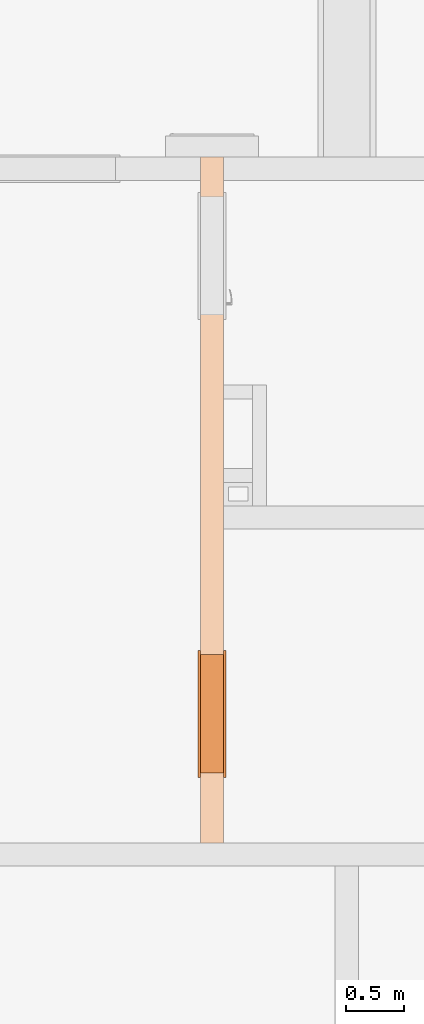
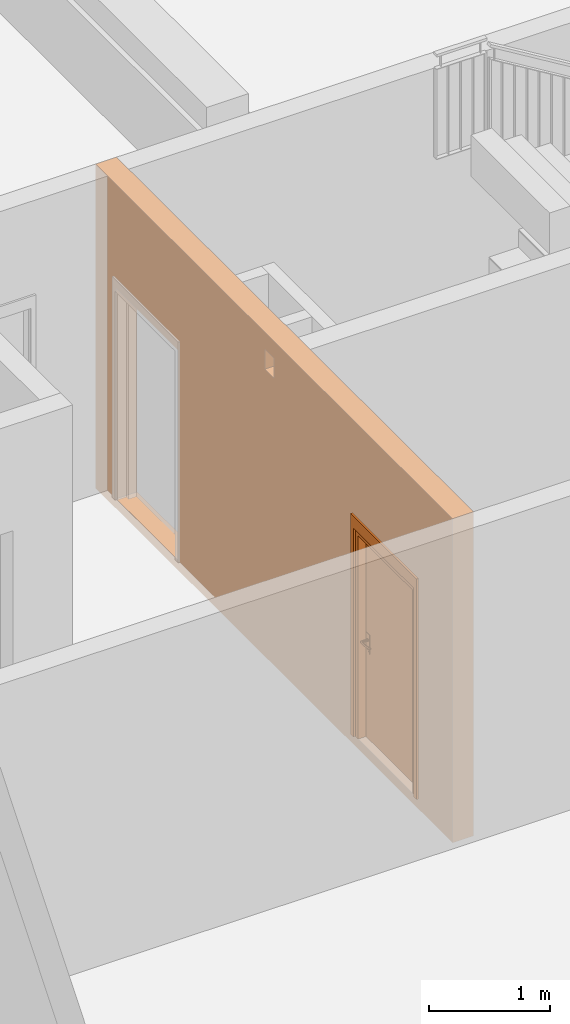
# One storey, part 18 of 25: 1 proxy, 3 openings, plus 1 element that does not belong to this part.
"""IFC2X3 building model written with IfcOpenShell, lengths in millimetres."""

import ifcopenshell
import ifcopenshell.guid

model = None  # the IFC model being written
_history = None  # IfcOwnerHistory: only IFC2X3 demands one
_inside = {}  # id of a spatial element -> (the spatial element, [elements in it])
_under = {}  # id of a project, library or spatial element -> (it, [spatial elements below it])
_declared = {}  # id of a project -> (the project, [libraries it declares])
_typed = {}  # id of a type object -> (the type object, [elements of that type])
_made_of = {}  # id of a material, layer set ... -> (it, [elements and type objects made of it])


def new_model(schema):
    """Start an empty IFC model of exactly this schema.

    Asked for "IFC4X3", IfcOpenShell would pick the latest addendum, in which some entities
    have other attributes; the version numbers below select the first issue.
    IFC2X3 requires an IfcOwnerHistory on every rooted entity: one is made here for all.
    """
    global model, _history
    if schema == "IFC4X3":
        model = ifcopenshell.file(schema_version=(4, 3, 0, 0))
    else:
        model = ifcopenshell.file(schema=schema)
    _inside.clear()
    _under.clear()
    _declared.clear()
    _typed.clear()
    _made_of.clear()
    _history = None
    if model.schema == "IFC2X3":
        org = make("IfcOrganization", Name="unknown")
        user = make(
            "IfcPersonAndOrganization",
            ThePerson=make("IfcPerson", FamilyName="unknown"),
            TheOrganization=org,
        )
        app = make(
            "IfcApplication",
            ApplicationDeveloper=org,
            Version="unknown",
            ApplicationFullName="unknown",
            ApplicationIdentifier="unknown",
        )
        _history = make(
            "IfcOwnerHistory",
            OwningUser=user,
            OwningApplication=app,
            ChangeAction="ADDED",
            CreationDate=0,
        )
    return model


def make(cls, **values):
    """One entity of the class cls with the attributes given. An attribute that is None is left unset."""
    return model.create_entity(
        cls, **{name: value for name, value in values.items() if value is not None}
    )


def entity(cls, *values):
    """Any entity or typed value of the class cls, its attributes in the order of the schema. None: left unset."""
    e = model.create_entity(cls)
    for i, value in enumerate(values):
        if value is not None:
            e[i] = value
    return e


def rooted(cls, **values):
    """An entity with a GlobalId (a new one), such as an element, a storey or a relation."""
    return make(cls, GlobalId=ifcopenshell.guid.new(), OwnerHistory=_history, **values)


def si_unit(unit_type, name, prefix=None):
    """IfcSIUnit, for example si_unit("LENGTHUNIT", "METRE", prefix="MILLI")."""
    return make("IfcSIUnit", UnitType=unit_type, Prefix=prefix, Name=name)


def converted_unit(unit_type, name, factor, base, dimensions=None, offset=None):
    """IfcConversionBasedUnit, such as the inch: factor (a typed value) times the base unit."""
    return make(
        "IfcConversionBasedUnit"
        if offset is None
        else "IfcConversionBasedUnitWithOffset",
        ConversionOffset=offset,
        Dimensions=None
        if dimensions is None
        else entity("IfcDimensionalExponents", *dimensions),
        UnitType=unit_type,
        Name=name,
        ConversionFactor=make(
            "IfcMeasureWithUnit", ValueComponent=factor, UnitComponent=base
        ),
    )


def derived_unit(unit_type, elements):
    """IfcDerivedUnit: a product of units, each with its exponent."""
    return make(
        "IfcDerivedUnit",
        Elements=[
            make("IfcDerivedUnitElement", Unit=unit, Exponent=power)
            for unit, power in elements
        ],
        UnitType=unit_type,
    )


def money_unit(currency):
    """IfcMonetaryUnit."""
    return make("IfcMonetaryUnit", Currency=currency)


def assignment(units):
    """IfcUnitAssignment: the units of a project."""
    return None if units is None else make("IfcUnitAssignment", Units=units)


def point(xyz):
    """IfcCartesianPoint."""
    return None if xyz is None else make("IfcCartesianPoint", Coordinates=xyz)


def direction(xyz):
    """IfcDirection."""
    return None if xyz is None else make("IfcDirection", DirectionRatios=xyz)


def frame(location, z_axis=None, x_axis=None):
    """IfcAxis2Placement3D, a coordinate frame: its origin and axes. An axis left out is left unset."""
    return make(
        "IfcAxis2Placement3D",
        Location=point(location),
        Axis=direction(z_axis),
        RefDirection=direction(x_axis),
    )


def frame_2d(location, x_axis=None):
    """IfcAxis2Placement2D, a coordinate frame in the plane: its origin and x axis."""
    return make(
        "IfcAxis2Placement2D", Location=point(location), RefDirection=direction(x_axis)
    )


def origin_with_axes():
    """The frame at (0, 0, 0) with the z axis (0, 0, 1) and the x axis (1, 0, 0) written out."""
    return frame((0.0, 0.0, 0.0), z_axis=(0.0, 0.0, 1.0), x_axis=(1.0, 0.0, 0.0))


def origin_2d_with_axis():
    """The frame at (0, 0) in the plane with the x axis (1, 0) written out."""
    return frame_2d((0.0, 0.0), x_axis=(1.0, 0.0))


def place(relative_to, where):
    """IfcLocalPlacement: puts the frame where relative to a parent placement (None: the world)."""
    return make(
        "IfcLocalPlacement", PlacementRelTo=relative_to, RelativePlacement=where
    )


def context(
    kind, dimensions, precision=None, world=None, true_north=None, identifier=None
):
    """IfcGeometricRepresentationContext, for example the 3D "Model" context."""
    return make(
        "IfcGeometricRepresentationContext",
        ContextIdentifier=identifier,
        ContextType=kind,
        CoordinateSpaceDimension=dimensions,
        Precision=precision,
        WorldCoordinateSystem=world,
        TrueNorth=true_north,
    )


def subcontext(parent, identifier, kind, view, scale=None):
    """IfcGeometricRepresentationSubContext, for example "Body" below "Model"."""
    return make(
        "IfcGeometricRepresentationSubContext",
        ContextIdentifier=identifier,
        ContextType=kind,
        ParentContext=parent,
        TargetScale=scale,
        TargetView=view,
    )


def project(units=None, contexts=None):
    """IfcProject with its units and contexts."""
    return rooted(
        "IfcProject",
        Name="project",
        RepresentationContexts=contexts,
        UnitsInContext=assignment(units),
    )


def spatial(cls, under=None, at=None, **own):
    """A site, building, storey or space (cls), placed at a placement, below another one or the project."""
    s = rooted(cls, ObjectPlacement=at, **own)
    if under is not None:
        _under.setdefault(under.id(), (under, []))[1].append(s)
    return s


def profile(cls, at=None, kind="AREA", **sizes):
    """A parametric profile (cls). Its sizes go by their IFC names, for example OverallWidth=200.0."""
    return make(cls, ProfileType=kind, Position=at, **sizes)


def rectangle(**sizes):
    """IfcRectangleProfileDef."""
    return profile("IfcRectangleProfileDef", **sizes)


def extrude(swept, where, along, depth):
    """IfcExtrudedAreaSolid: the profile swept, set in the frame where, extruded along a direction by depth."""
    return make(
        "IfcExtrudedAreaSolid",
        SweptArea=swept,
        Position=where,
        ExtrudedDirection=direction(along),
        Depth=depth,
    )


def faces_of(points, faces, orient=None, outer=None):
    """IfcFace entities. A face is a list of loops; a loop is a list of indices into points, from 0.

    orient and outer hold one flag for each loop. By default every Orientation is true, the
    first loop of a face is its IfcFaceOuterBound and the others are IfcFaceBound.
    """
    made = []
    for i, loops in enumerate(faces):
        bounds = []
        for j, loop in enumerate(loops):
            is_outer = j == 0 if outer is None else outer[i][j]
            bounds.append(
                make(
                    "IfcFaceOuterBound" if is_outer else "IfcFaceBound",
                    Bound=make("IfcPolyLoop", Polygon=[points[k] for k in loop]),
                    Orientation=True if orient is None else orient[i][j],
                )
            )
        made.append(make("IfcFace", Bounds=bounds))
    return made


def open_shell(faces, orient=None, outer=None):
    """The faces of one IfcOpenShell. surface_model builds it on its shared points."""
    return ("IfcOpenShell", faces, orient, outer)


def faceted_brep(points, faces, orient=None, outer=None, voids=None):
    """IfcFacetedBrep: a solid bounded by flat faces; with voids (closed shells), ...WithVoids."""
    shared = [point(p) for p in points]
    hull = make("IfcClosedShell", CfsFaces=faces_of(shared, faces, orient, outer))
    if voids is None:
        return make("IfcFacetedBrep", Outer=hull)
    return make(
        "IfcFacetedBrepWithVoids",
        Outer=hull,
        Voids=[
            make(cls, CfsFaces=faces_of(shared, fs, o, b)) for cls, fs, o, b in voids
        ],
    )


def surface_model(cls, points, shells):
    """IfcFaceBasedSurfaceModel or IfcShellBasedSurfaceModel (cls): surfaces that need not close."""
    shared = [point(p) for p in points]
    made = [make(c, CfsFaces=faces_of(shared, fs, o, b)) for c, fs, o, b in shells]
    if cls == "IfcFaceBasedSurfaceModel":
        return make(cls, FbsmFaces=made)
    return make(cls, SbsmBoundary=made)


def shape(context_of_items, identifier, shape_type, items):
    """IfcShapeRepresentation: the items that make up one representation, for example the "Body"."""
    return make(
        "IfcShapeRepresentation",
        ContextOfItems=context_of_items,
        RepresentationIdentifier=identifier,
        RepresentationType=shape_type,
        Items=items,
    )


def source(mapping_origin, context_of_items, identifier, shape_type, items):
    """IfcRepresentationMap: a shape defined once, which mapped items show again and again."""
    return make(
        "IfcRepresentationMap",
        MappingOrigin=mapping_origin,
        MappedRepresentation=shape(context_of_items, identifier, shape_type, items),
    )


def transform(
    local_origin,
    x_axis=None,
    y_axis=None,
    z_axis=None,
    scale=None,
    scale2=None,
    scale3=None,
    uniform=True,
):
    """IfcCartesianTransformationOperator3D, or its non-uniform kind. x_axis, y_axis, z_axis: its Axis1, 2, 3."""
    if uniform:
        return make(
            "IfcCartesianTransformationOperator3D",
            Axis1=direction(x_axis),
            Axis2=direction(y_axis),
            LocalOrigin=point(local_origin),
            Scale=scale,
            Axis3=direction(z_axis),
        )
    return make(
        "IfcCartesianTransformationOperator3DnonUniform",
        Axis1=direction(x_axis),
        Axis2=direction(y_axis),
        LocalOrigin=point(local_origin),
        Scale=scale,
        Axis3=direction(z_axis),
        Scale2=scale2,
        Scale3=scale3,
    )


def mapped(mapping_source, mapping_target):
    """IfcMappedItem: shows the shape of a source again, moved by a transform."""
    return make(
        "IfcMappedItem", MappingSource=mapping_source, MappingTarget=mapping_target
    )


def material(Name=None, Category=None):
    """IfcMaterial."""
    return make("IfcMaterial", Name=Name, Category=Category)


def made_of(thing, what):
    """Note that an element or type object is made of a material, layer set ...; save() writes the relation."""
    if what is not None:
        _made_of.setdefault(what.id(), (what, []))[1].append(thing)
    return thing


def type_object(cls, material=None, **own):
    """A type object (cls), such as IfcWallType, which elements share."""
    return made_of(rooted(cls, **own), material)


def element(
    cls,
    number,
    at=None,
    inside=None,
    cuts=None,
    type_object=None,
    material=None,
    context=None,
    identifier="Body",
    shape_type=None,
    held_by="IfcProductDefinitionShape",
    body=None,
    shapes=None,
    **own,
):
    """One element of the class cls, such as IfcWall. Its Tag is "e" and its number.

    at: its placement. inside: the storey or other place that contains it. cuts: it is an
    opening in that element (IfcRelVoidsElement). A single representation is given by context,
    identifier, shape_type and body (its items); several are given by shapes. held_by: the class
    of the entity that holds the representations. save() writes the other relations.
    """
    e = rooted(cls, Tag="e%d" % number, ObjectPlacement=at, **own)
    if body is not None:
        shapes = [shape(context, identifier, shape_type, body)]
    if shapes is not None:
        e.Representation = make(held_by, Representations=shapes)
    if inside is not None:
        _inside.setdefault(inside.id(), (inside, []))[1].append(e)
    if cuts is not None:
        rooted(
            "IfcRelVoidsElement", RelatingBuildingElement=cuts, RelatedOpeningElement=e
        )
    if type_object is not None:
        _typed.setdefault(type_object.id(), (type_object, []))[1].append(e)
    return made_of(e, material)


def fill(opening, filler):
    """IfcRelFillsElement: the door or window that sits in an opening."""
    return rooted(
        "IfcRelFillsElement",
        RelatingOpeningElement=opening,
        RelatedBuildingElement=filler,
    )


def aggregate(whole, parts):
    """IfcRelAggregates: a whole, such as a stair, and the parts it consists of."""
    return rooted("IfcRelAggregates", RelatingObject=whole, RelatedObjects=parts)


def save(model, path):
    """Write the relations noted so far, then the file.

    IfcRelAggregates (storeys below a building ...), IfcRelContainedInSpatialStructure (elements
    in a storey), IfcRelDefinesByType, IfcRelAssociatesMaterial and IfcRelDeclares: one each for
    every whole, place, type object, material and project.
    """
    for whole, parts in _under.values():
        aggregate(whole, parts)
    for where, things in _inside.values():
        rooted(
            "IfcRelContainedInSpatialStructure",
            RelatedElements=things,
            RelatingStructure=where,
        )
    for kind, things in _typed.values():
        rooted("IfcRelDefinesByType", RelatedObjects=things, RelatingType=kind)
    for what, things in _made_of.values():
        rooted("IfcRelAssociatesMaterial", RelatedObjects=things, RelatingMaterial=what)
    for by, libraries in _declared.values():
        rooted("IfcRelDeclares", RelatingContext=by, RelatedDefinitions=libraries)
    model.write(path)


model = new_model("IFC2X3")

# Units and contexts
model_context = context("Model", 3, precision=0.01, world=origin_with_axes(), true_north=direction((0.34421633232, 0.938890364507)))
body_context = subcontext(model_context, "Body", "Model", "MODEL_VIEW")
ifc_project = project(units=[si_unit("LENGTHUNIT", "METRE", prefix="MILLI"), si_unit("AREAUNIT", "SQUARE_METRE"), si_unit("VOLUMEUNIT", "CUBIC_METRE"), converted_unit("PLANEANGLEUNIT", "DEGREE", entity("IfcPlaneAngleMeasure", 0.0174532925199), si_unit("PLANEANGLEUNIT", "RADIAN"), dimensions=[0, 0, 0, 0, 0, 0, 0]), si_unit("SOLIDANGLEUNIT", "STERADIAN"), money_unit("USD"), converted_unit("TIMEUNIT", "Year", entity("IfcTimeMeasure", 31556926.0), si_unit("TIMEUNIT", "SECOND"), dimensions=[0, 0, 1, 0, 0, 0, 0]), si_unit("MASSUNIT", "GRAM", prefix="KILO"), si_unit("THERMODYNAMICTEMPERATUREUNIT", "DEGREE_CELSIUS"), si_unit("LUMINOUSINTENSITYUNIT", "LUMEN"), si_unit("ENERGYUNIT", "JOULE", prefix="MEGA"), derived_unit("THERMALCONDUCTANCEUNIT", [(si_unit("POWERUNIT", "WATT"), 1), (si_unit("LENGTHUNIT", "METRE"), -1), (si_unit("THERMODYNAMICTEMPERATUREUNIT", "KELVIN"), -1)]), derived_unit("SPECIFICHEATCAPACITYUNIT", [(si_unit("ENERGYUNIT", "JOULE"), 1), (si_unit("MASSUNIT", "GRAM", prefix="KILO"), -1), (si_unit("THERMODYNAMICTEMPERATUREUNIT", "KELVIN"), -1)]), derived_unit("MASSDENSITYUNIT", [(si_unit("MASSUNIT", "GRAM", prefix="KILO"), 1), (si_unit("VOLUMEUNIT", "CUBIC_METRE"), -1)])], contexts=[model_context])

# Site, building, storey
site_placement = place(None, origin_with_axes())
site = spatial("IfcSite", under=ifc_project, at=site_placement, Name="USTRONIE MORSKIE", CompositionType="ELEMENT")
building_placement = place(site_placement, origin_with_axes())
building = spatial("IfcBuilding", under=site, at=building_placement, Name="Budynek", CompositionType="ELEMENT")
storey_placement = place(building_placement, frame((0.0, 0.0, -3600.0), z_axis=(0.0, 0.0, 1.0), x_axis=(1.0, 0.0, 0.0)))
storey = spatial("IfcBuildingStorey", under=building, at=storey_placement, Name="GARAZ", CompositionType="ELEMENT", Elevation=-3600.0)

# Proxies, openings
ifc_material = material(Name="Beton konstrukcyjny 01")
building_element_proxy_type_1 = type_object("IfcBuildingElementProxyType", Name="Beton konstrukcyjny 01 200", PredefinedType="NOTDEFINED")
proxy_1_placement = place(storey_placement, frame((389657.920919, 726901.199036, -100.0), z_axis=(0.0, 0.0, 1.0), x_axis=(0.0, 1.0, 0.0)))
proxy_1 = element("IfcBuildingElementProxy", 1, at=proxy_1_placement, inside=storey, type_object=building_element_proxy_type_1, material=ifc_material, Name="SW-01", context=body_context, shape_type="Brep", body=[
    faceted_brep([(6000.0, -100.0, 3270.0), (6000.0, 100.0, 3270.0), (100.0, 100.0, 3270.0), (100.0, -100.0, 3270.0), (6000.0, -100.0, 0.0), (6000.0, 100.0, 0.0), (100.0, 100.0, 0.0), (100.0, -100.0, 0.0)], [[[0, 1, 2, 3]], [[1, 0, 4, 5]], [[1, 5, 6, 2]], [[7, 3, 2, 6]], [[4, 0, 3, 7]], [[5, 4, 7, 6]]]),
])
opening_1_placement = place(proxy_1_placement, frame((3125.0, 0.0, 2900.0), z_axis=(0.0, 0.0, 1.0), x_axis=(1.0, 0.0, 0.0)))
element("IfcOpeningElement", 2, at=opening_1_placement, cuts=proxy_1, Name="Wz.04", context=body_context, shape_type="SweptSolid", body=[
    extrude(rectangle(XDim=150.0, YDim=200.0, at=origin_2d_with_axis()), frame((0.0, 100.0, 100.0), z_axis=(0.0, -1.0, 0.0), x_axis=(1.0, 0.0, 0.0)), (0.0, 0.0, -1.0), 200.0),
    extrude(rectangle(XDim=150.0, YDim=200.0, at=origin_2d_with_axis()), frame((0.0, 100.0, 100.0), z_axis=(0.0, 1.0, 0.0), x_axis=(1.0, 0.0, 0.0)), (0.0, 0.0, -1.0), 200.0),
])
opening_2_placement = place(proxy_1_placement, frame((5150.0, 0.0, 100.0), z_axis=(0.0, 0.0, 1.0), x_axis=(1.0, 0.0, 0.0)))
element("IfcOpeningElement", 3, at=opening_2_placement, cuts=proxy_1, Name="Dw03", context=body_context, shape_type="SweptSolid", body=[
    extrude(rectangle(XDim=1020.0, YDim=2120.0, at=origin_2d_with_axis()), frame((0.0, 200.0, 1060.0), z_axis=(0.0, 1.0, 0.0), x_axis=(1.0, 0.0, 0.0)), (0.0, 0.0, -1.0), 600.0),
    extrude(rectangle(XDim=1094.0, YDim=2227.0, at=origin_2d_with_axis()), frame((0.0, 100.0, 1113.5), z_axis=(0.0, 1.0, 0.0), x_axis=(1.0, 0.0, 0.0)), (0.0, 0.0, 1.0), 200.0),
    extrude(rectangle(XDim=1094.0, YDim=2227.0, at=origin_2d_with_axis()), frame((0.0, -100.0, 1113.5), z_axis=(0.0, -1.0, 0.0), x_axis=(1.0, 0.0, 0.0)), (0.0, 0.0, 1.0), 200.0),
])
opening_3_placement = place(proxy_1_placement, frame((1210.0, 0.0, 100.0), z_axis=(0.0, 0.0, 1.0), x_axis=(1.0, 0.0, 0.0)))
opening_3 = element("IfcOpeningElement", 4, at=opening_3_placement, cuts=proxy_1, Name="Dw02", context=body_context, shape_type="SweptSolid", body=[
    extrude(rectangle(XDim=1020.0, YDim=2120.0, at=origin_2d_with_axis()), frame((0.0, -200.0, 1060.0), z_axis=(0.0, 1.0, 0.0), x_axis=(-1.0, 0.0, 0.0)), (0.0, 0.0, 1.0), 600.0),
    extrude(rectangle(XDim=1094.0, YDim=2227.0, at=origin_2d_with_axis()), frame((0.0, -100.0, 1113.5), z_axis=(0.0, 1.0, 0.0), x_axis=(-1.0, 0.0, 0.0)), (0.0, 0.0, -1.0), 200.0),
    extrude(rectangle(XDim=1094.0, YDim=2227.0, at=origin_2d_with_axis()), frame((0.0, 100.0, 1113.5), z_axis=(0.0, -1.0, 0.0), x_axis=(-1.0, 0.0, 0.0)), (0.0, 0.0, -1.0), 200.0),
])
building_element_proxy_type_2 = type_object("IfcBuildingElementProxyType", Name="Drzwi 23", PredefinedType="NOTDEFINED")
shared_shape = source(origin_with_axes(), body_context, "Body", "SurfaceModel", [
    faceted_brep([(-510.0, 0.0, 0.0), (-510.0, 85.0, 0.0), (-485.0, 85.0, 0.0), (-485.0, 0.0, 0.0), (-510.0, 0.0, 2120.0), (-510.0, 85.0, 2120.0), (-485.0, 85.0, 2095.0), (-485.0, 0.0, 2095.0)], [[[0, 1, 2, 3]], [[4, 5, 1, 0]], [[1, 5, 6, 2]], [[3, 2, 6, 7]], [[0, 3, 7, 4]], [[7, 6, 5, 4]]]),
    faceted_brep([(510.0, 0.0, 2120.0), (510.0, 85.0, 2120.0), (485.0, 85.0, 2095.0), (485.0, 0.0, 2095.0), (510.0, 0.0, 0.0), (510.0, 85.0, 0.0), (485.0, 85.0, 0.0), (485.0, 0.0, 0.0)], [[[0, 1, 2, 3]], [[4, 5, 1, 0]], [[1, 5, 6, 2]], [[3, 2, 6, 7]], [[0, 3, 7, 4]], [[7, 6, 5, 4]]]),
    faceted_brep([(-485.0, 0.0, 2095.0), (-485.0, 85.0, 2095.0), (485.0, 85.0, 2095.0), (485.0, 0.0, 2095.0), (-510.0, 0.0, 2120.0), (-510.0, 85.0, 2120.0), (510.0, 85.0, 2120.0), (510.0, 0.0, 2120.0)], [[[0, 1, 2, 3]], [[4, 5, 1, 0]], [[1, 5, 6, 2]], [[3, 2, 6, 7]], [[0, 3, 7, 4]], [[7, 6, 5, 4]]]),
    faceted_brep([(-547.0, 104.0, 0.0), (-497.0, 104.0, 0.0), (-497.0, 85.0, 0.0), (-547.0, 85.0, 0.0), (-547.0, 104.0, 2227.0), (-497.0, 104.0, 2107.0), (-497.0, 85.0, 2107.0), (-547.0, 85.0, 2227.0)], [[[0, 1, 2, 3]], [[0, 4, 5, 1]], [[1, 5, 6, 2]], [[3, 2, 6, 7]], [[4, 0, 3, 7]], [[5, 4, 7, 6]]]),
    faceted_brep([(547.0, 104.0, 2227.0), (497.0, 104.0, 2107.0), (497.0, 85.0, 2107.0), (547.0, 85.0, 2227.0), (547.0, 104.0, 0.0), (497.0, 104.0, 0.0), (497.0, 85.0, 0.0), (547.0, 85.0, 0.0)], [[[0, 1, 2, 3]], [[0, 4, 5, 1]], [[1, 5, 6, 2]], [[3, 2, 6, 7]], [[4, 0, 3, 7]], [[5, 4, 7, 6]]]),
    faceted_brep([(-547.0, 104.0, 2227.0), (-497.0, 104.0, 2107.0), (-497.0, 85.0, 2107.0), (-547.0, 85.0, 2227.0), (547.0, 104.0, 2227.0), (497.0, 104.0, 2107.0), (497.0, 85.0, 2107.0), (547.0, 85.0, 2227.0)], [[[0, 1, 2, 3]], [[0, 4, 5, 1]], [[1, 5, 6, 2]], [[3, 2, 6, 7]], [[4, 0, 3, 7]], [[5, 4, 7, 6]]]),
    faceted_brep([(-547.0, -134.0, 0.0), (-547.0, -115.0, 0.0), (-497.0, -115.0, 0.0), (-497.0, -134.0, 0.0), (-547.0, -134.0, 2227.0), (-547.0, -115.0, 2227.0), (-497.0, -115.0, 2107.0), (-497.0, -134.0, 2107.0)], [[[0, 1, 2, 3]], [[4, 5, 1, 0]], [[1, 5, 6, 2]], [[3, 2, 6, 7]], [[0, 3, 7, 4]], [[7, 6, 5, 4]]]),
    faceted_brep([(547.0, -134.0, 2227.0), (547.0, -115.0, 2227.0), (497.0, -115.0, 2107.0), (497.0, -134.0, 2107.0), (547.0, -134.0, 0.0), (547.0, -115.0, 0.0), (497.0, -115.0, 0.0), (497.0, -134.0, 0.0)], [[[0, 1, 2, 3]], [[4, 5, 1, 0]], [[1, 5, 6, 2]], [[3, 2, 6, 7]], [[0, 3, 7, 4]], [[7, 6, 5, 4]]]),
    faceted_brep([(-547.0, -134.0, 2227.0), (-547.0, -115.0, 2227.0), (-497.0, -115.0, 2107.0), (-497.0, -134.0, 2107.0), (547.0, -134.0, 2227.0), (547.0, -115.0, 2227.0), (497.0, -115.0, 2107.0), (497.0, -134.0, 2107.0)], [[[0, 1, 2, 3]], [[4, 5, 1, 0]], [[1, 5, 6, 2]], [[3, 2, 6, 7]], [[0, 3, 7, 4]], [[7, 6, 5, 4]]]),
    faceted_brep([(-450.0, -40.0, 0.0), (-450.0, -40.0, 2050.0), (-450.0, -115.0, 2050.0), (-450.0, -115.0, 0.0), (-462.0, -40.0, 2050.0), (-462.0, -40.0, 0.0), (-462.0, 0.0, 2050.0), (-510.0, 0.0, 2050.0), (-510.0, -115.0, 2050.0), (-510.0, -115.0, 0.0), (-510.0, 0.0, 0.0), (-462.0, 0.0, 0.0)], [[[0, 1, 2, 3]], [[4, 1, 0, 5]], [[4, 6, 7, 8, 2, 1]], [[3, 2, 8, 9]], [[5, 0, 3, 9, 10, 11]], [[6, 4, 5, 11]], [[6, 11, 10, 7]], [[10, 9, 8, 7]]]),
    faceted_brep([(462.0, -40.0, 2050.0), (450.0, -40.0, 2050.0), (450.0, -115.0, 2050.0), (510.0, -115.0, 2050.0), (510.0, 0.0, 2050.0), (462.0, 0.0, 2050.0), (462.0, -40.0, 0.0), (450.0, -40.0, 0.0), (450.0, -115.0, 0.0), (510.0, -115.0, 0.0), (510.0, 0.0, 0.0), (462.0, 0.0, 0.0)], [[[0, 1, 2, 3, 4, 5]], [[1, 0, 6, 7]], [[1, 7, 8, 2]], [[3, 2, 8, 9]], [[4, 3, 9, 10]], [[11, 5, 4, 10]], [[0, 5, 11, 6]], [[6, 11, 10, 9, 8, 7]]]),
    faceted_brep([(-462.0, 0.0, 2062.0), (-462.0, 0.0, 2050.0), (-510.0, 0.0, 2050.0), (-510.0, 0.0, 2120.0), (510.0, 0.0, 2120.0), (510.0, 0.0, 2050.0), (462.0, 0.0, 2050.0), (462.0, 0.0, 2062.0), (-462.0, -40.0, 2062.0), (-462.0, -40.0, 2050.0), (-450.0, -40.0, 2050.0), (-450.0, -115.0, 2050.0), (-510.0, -115.0, 2050.0), (-510.0, -115.0, 2120.0), (510.0, -115.0, 2120.0), (510.0, -115.0, 2050.0), (462.0, -40.0, 2050.0), (450.0, -115.0, 2050.0), (450.0, -40.0, 2050.0), (462.0, -40.0, 2062.0)], [[[0, 1, 2, 3, 4, 5, 6, 7]], [[1, 0, 8, 9]], [[9, 10, 11, 12, 2, 1]], [[2, 12, 13, 3]], [[3, 13, 14, 4]], [[4, 14, 15, 5]], [[16, 6, 5, 15, 17, 18]], [[7, 6, 16, 19]], [[0, 7, 19, 8]], [[16, 18, 10, 9, 8, 19]], [[10, 18, 17, 11]], [[17, 15, 14, 13, 12, 11]]]),
    faceted_brep([(-440.5, -40.0, 1060.0), (-440.5, -43.0, 1060.0), (-383.5, -43.0, 1060.0), (-383.5, -40.0, 1060.0), (-440.5, -40.0, 870.0), (-440.5, -43.0, 870.0), (-383.5, -43.0, 870.0), (-383.5, -40.0, 870.0)], [[[0, 1, 2, 3]], [[4, 5, 1, 0]], [[1, 5, 6, 2]], [[3, 2, 6, 7]], [[0, 3, 7, 4]], [[7, 6, 5, 4]]]),
    faceted_brep([(-412.0, -104.0, 990.0), (-412.0, -111.0, 990.0), (-417.0, -111.0, 991.339745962), (-417.0, -104.0, 991.339745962), (-387.0, -104.0, 990.0), (-387.0, -111.0, 990.0), (-387.0, -111.0, 1010.0), (-412.0, -111.0, 1010.0), (-417.0, -111.0, 1008.66025404), (-420.660254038, -111.0, 1005.0), (-422.0, -111.0, 1000.0), (-420.660254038, -111.0, 995.0), (-420.660254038, -104.0, 995.0), (-422.0, -104.0, 1000.0), (-420.660254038, -104.0, 1005.0), (-417.0, -104.0, 1008.66025404), (-412.0, -104.0, 1010.0), (-387.0, -104.0, 1010.0)], [[[0, 1, 2, 3]], [[4, 5, 1, 0]], [[1, 5, 6, 7, 8, 9, 10, 11, 2]], [[3, 2, 11, 12]], [[0, 3, 12, 13, 14, 15, 16, 17, 4]], [[17, 6, 5, 4]], [[16, 7, 6, 17]], [[15, 8, 7, 16]], [[14, 9, 8, 15]], [[13, 10, 9, 14]], [[12, 11, 10, 13]]]),
    surface_model("IfcShellBasedSurfaceModel", [(-387.0, -104.0, 1010.0), (-373.596090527, -111.0, 1009.60730092), (-373.901717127, -104.0, 1009.60730092), (-387.0, -111.0, 1010.0), (-346.890283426, -108.663544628, 1008.82190275), (-373.901717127, -104.0, 990.392699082), (-387.0, -104.0, 990.0), (-387.0, -111.0, 990.0), (-373.596090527, -111.0, 990.392699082), (-346.890283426, -108.663544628, 991.178097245), (-347.804837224, -101.716818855, 1008.82190275), (-347.804837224, -101.716818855, 991.178097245), (-320.489735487, -104.008415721, 991.963495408), (-320.489735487, -104.008415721, 1008.03650459), (-322.006256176, -97.1678329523, 1008.03650459), (-322.006256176, -97.1678329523, 991.963495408), (-294.59537082, -97.0700416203, 992.748893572), (-294.59537082, -97.0700416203, 1007.25110643), (-296.702316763, -90.3876628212, 1007.25110643), (-296.702316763, -90.3876628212, 992.748893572), (-286.538795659, -94.1376880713, 993.0), (-286.538795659, -94.1376880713, 1007.0), (-288.829442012, -87.5221707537, 1007.0), (-288.829442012, -87.5221707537, 993.0)], [open_shell([[[0, 1, 2]], [[0, 3, 1]], [[2, 1, 4]], [[0, 2, 5, 6]], [[3, 7, 8, 1]], [[1, 8, 9, 4]], [[2, 4, 10]], [[2, 10, 11, 5]], [[5, 7, 6]], [[5, 8, 7]], [[11, 9, 8]], [[4, 9, 12, 13]], [[10, 4, 13]], [[10, 14, 15, 11]], [[11, 8, 5]], [[15, 9, 11]], [[15, 12, 9]], [[13, 12, 16, 17]], [[10, 13, 14]], [[14, 18, 19, 15]], [[19, 12, 15]], [[19, 16, 12]], [[17, 16, 20, 21]], [[14, 13, 17]], [[14, 17, 18]], [[18, 22, 23, 19]], [[23, 16, 19]], [[23, 20, 16]], [[22, 21, 20, 23]], [[18, 17, 21]], [[18, 21, 22]]])]),
    faceted_brep([(-401.607695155, -53.0, 994.0), (-400.741669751, -43.0, 993.5), (-399.0, -43.0, 1000.0), (-400.0, -53.0, 1000.0), (-406.0, -53.0, 989.607695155), (-405.5, -43.0, 988.741669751), (-412.0, -43.0, 987.0), (-418.5, -43.0, 988.741669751), (-423.258330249, -43.0, 993.5), (-425.0, -43.0, 1000.0), (-423.258330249, -43.0, 1006.5), (-418.5, -43.0, 1011.25833025), (-412.0, -43.0, 1013.0), (-405.5, -43.0, 1011.25833025), (-400.741669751, -43.0, 1006.5), (-401.607695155, -53.0, 1006.0), (-406.0, -53.0, 1010.39230485), (-412.0, -53.0, 1012.0), (-418.0, -53.0, 1010.39230485), (-422.392304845, -53.0, 1006.0), (-424.0, -53.0, 1000.0), (-422.392304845, -53.0, 994.0), (-418.0, -53.0, 989.607695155), (-412.0, -53.0, 988.0)], [[[0, 1, 2, 3]], [[4, 5, 1, 0]], [[2, 1, 5, 6, 7, 8, 9, 10, 11, 12, 13, 14]], [[3, 2, 14, 15]], [[3, 15, 16, 17, 18, 19, 20, 21, 22, 23, 4, 0]], [[23, 6, 5, 4]], [[22, 7, 6, 23]], [[21, 8, 7, 22]], [[20, 9, 8, 21]], [[19, 10, 9, 20]], [[18, 11, 10, 19]], [[17, 12, 11, 18]], [[16, 13, 12, 17]], [[15, 14, 13, 16]]]),
    faceted_brep([(-394.679491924, -47.0, 895.0), (-392.947441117, -43.0, 894.0), (-390.0, -43.0, 905.0), (-392.0, -47.0, 905.0), (-402.0, -47.0, 887.679491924), (-401.0, -43.0, 885.947441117), (-412.0, -43.0, 883.0), (-423.0, -43.0, 885.947441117), (-431.052558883, -43.0, 894.0), (-434.0, -43.0, 905.0), (-431.052558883, -43.0, 916.0), (-423.0, -43.0, 924.052558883), (-412.0, -43.0, 927.0), (-401.0, -43.0, 924.052558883), (-392.947441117, -43.0, 916.0), (-394.679491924, -47.0, 915.0), (-402.0, -47.0, 922.320508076), (-412.0, -47.0, 925.0), (-422.0, -47.0, 922.320508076), (-429.320508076, -47.0, 915.0), (-432.0, -47.0, 905.0), (-429.320508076, -47.0, 895.0), (-422.0, -47.0, 887.679491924), (-412.0, -47.0, 885.0)], [[[0, 1, 2, 3]], [[4, 5, 1, 0]], [[2, 1, 5, 6, 7, 8, 9, 10, 11, 12, 13, 14]], [[3, 2, 14, 15]], [[3, 15, 16, 17, 18, 19, 20, 21, 22, 23, 4, 0]], [[23, 6, 5, 4]], [[22, 7, 6, 23]], [[21, 8, 7, 22]], [[20, 9, 8, 21]], [[19, 10, 9, 20]], [[18, 11, 10, 19]], [[17, 12, 11, 18]], [[16, 13, 12, 17]], [[15, 14, 13, 16]]]),
    faceted_brep([(-407.050252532, -49.0, 909.050252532), (-406.343145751, -47.0, 908.343145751), (-404.0, -47.0, 914.0), (-405.0, -49.0, 914.0), (-412.0, -49.0, 907.0), (-412.0, -47.0, 906.0), (-417.656854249, -47.0, 908.343145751), (-420.0, -47.0, 914.0), (-417.656854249, -47.0, 919.656854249), (-412.0, -47.0, 922.0), (-406.343145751, -47.0, 919.656854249), (-407.050252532, -49.0, 918.949747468), (-412.0, -49.0, 921.0), (-416.949747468, -49.0, 918.949747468), (-419.0, -49.0, 914.0), (-416.949747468, -49.0, 909.050252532)], [[[0, 1, 2, 3]], [[4, 5, 1, 0]], [[2, 1, 5, 6, 7, 8, 9, 10]], [[3, 2, 10, 11]], [[3, 11, 12, 13, 14, 15, 4, 0]], [[15, 6, 5, 4]], [[14, 7, 6, 15]], [[13, 8, 7, 14]], [[12, 9, 8, 13]], [[11, 10, 9, 12]]]),
    faceted_brep([(-412.0, -53.0, 1010.0), (-412.0, -104.0, 1010.0), (-407.0, -104.0, 1008.66025404), (-407.0, -53.0, 1008.66025404), (-417.0, -53.0, 1008.66025404), (-417.0, -104.0, 1008.66025404), (-420.660254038, -104.0, 1005.0), (-422.0, -104.0, 1000.0), (-420.660254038, -104.0, 995.0), (-417.0, -104.0, 991.339745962), (-412.0, -104.0, 990.0), (-407.0, -104.0, 991.339745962), (-403.339745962, -104.0, 995.0), (-402.0, -104.0, 1000.0), (-403.339745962, -104.0, 1005.0), (-403.339745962, -53.0, 1005.0), (-402.0, -53.0, 1000.0), (-403.339745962, -53.0, 995.0), (-407.0, -53.0, 991.339745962), (-412.0, -53.0, 990.0), (-417.0, -53.0, 991.339745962), (-420.660254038, -53.0, 995.0), (-422.0, -53.0, 1000.0), (-420.660254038, -53.0, 1005.0)], [[[0, 1, 2, 3]], [[4, 5, 1, 0]], [[1, 5, 6, 7, 8, 9, 10, 11, 12, 13, 14, 2]], [[3, 2, 14, 15]], [[0, 3, 15, 16, 17, 18, 19, 20, 21, 22, 23, 4]], [[23, 6, 5, 4]], [[22, 7, 6, 23]], [[21, 8, 7, 22]], [[20, 9, 8, 21]], [[19, 10, 9, 20]], [[18, 11, 10, 19]], [[17, 12, 11, 18]], [[16, 13, 12, 17]], [[15, 14, 13, 16]]]),
    faceted_brep([(-440.5, 0.0, 1060.0), (-383.5, 0.0, 1060.0), (-383.5, 3.0, 1060.0), (-440.5, 3.0, 1060.0), (-440.5, 0.0, 870.0), (-383.5, 0.0, 870.0), (-383.5, 3.0, 870.0), (-440.5, 3.0, 870.0)], [[[0, 1, 2, 3]], [[0, 4, 5, 1]], [[1, 5, 6, 2]], [[3, 2, 6, 7]], [[4, 0, 3, 7]], [[5, 4, 7, 6]]]),
    faceted_brep([(-412.0, 64.0, 990.0), (-417.0, 64.0, 991.339745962), (-417.0, 71.0, 991.339745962), (-412.0, 71.0, 990.0), (-387.0, 64.0, 990.0), (-387.0, 64.0, 1010.0), (-412.0, 64.0, 1010.0), (-417.0, 64.0, 1008.66025404), (-420.660254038, 64.0, 1005.0), (-422.0, 64.0, 1000.0), (-420.660254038, 64.0, 995.0), (-420.660254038, 71.0, 995.0), (-422.0, 71.0, 1000.0), (-420.660254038, 71.0, 1005.0), (-417.0, 71.0, 1008.66025404), (-412.0, 71.0, 1010.0), (-387.0, 71.0, 1010.0), (-387.0, 71.0, 990.0)], [[[0, 1, 2, 3]], [[0, 4, 5, 6, 7, 8, 9, 10, 1]], [[1, 10, 11, 2]], [[3, 2, 11, 12, 13, 14, 15, 16, 17]], [[4, 0, 3, 17]], [[5, 4, 17, 16]], [[6, 5, 16, 15]], [[7, 6, 15, 14]], [[8, 7, 14, 13]], [[9, 8, 13, 12]], [[10, 9, 12, 11]]]),
    surface_model("IfcShellBasedSurfaceModel", [(-387.0, 64.0, 1010.0), (-373.901717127, 64.0, 1009.60730092), (-373.596090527, 71.0, 1009.60730092), (-387.0, 64.0, 990.0), (-373.901717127, 64.0, 990.392699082), (-346.890283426, 68.6635446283, 1008.82190275), (-387.0, 71.0, 1010.0), (-387.0, 71.0, 990.0), (-347.804837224, 61.716818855, 991.178097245), (-347.804837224, 61.716818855, 1008.82190275), (-346.890283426, 68.6635446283, 991.178097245), (-373.596090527, 71.0, 990.392699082), (-322.006256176, 57.1678329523, 991.963495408), (-322.006256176, 57.1678329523, 1008.03650459), (-320.489735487, 64.0084157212, 1008.03650459), (-320.489735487, 64.0084157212, 991.963495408), (-296.702316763, 50.3876628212, 992.748893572), (-296.702316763, 50.3876628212, 1007.25110643), (-294.59537082, 57.0700416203, 1007.25110643), (-294.59537082, 57.0700416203, 992.748893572), (-288.829442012, 47.5221707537, 993.0), (-288.829442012, 47.5221707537, 1007.0), (-286.538795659, 54.1376880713, 1007.0), (-286.538795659, 54.1376880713, 993.0)], [open_shell([[[0, 1, 2]], [[0, 3, 4, 1]], [[1, 5, 2]], [[0, 2, 6]], [[4, 3, 7]], [[1, 4, 8, 9]], [[1, 9, 5]], [[2, 5, 10, 11]], [[6, 2, 11, 7]], [[4, 7, 11]], [[8, 4, 11]], [[9, 8, 12, 13]], [[9, 14, 5]], [[5, 14, 15, 10]], [[8, 11, 10]], [[12, 8, 10]], [[13, 12, 16, 17]], [[9, 13, 14]], [[14, 18, 19, 15]], [[12, 10, 15]], [[16, 12, 15]], [[17, 16, 20, 21]], [[13, 17, 18]], [[13, 18, 14]], [[18, 22, 23, 19]], [[16, 15, 19]], [[20, 16, 19]], [[21, 20, 23, 22]], [[17, 21, 22]], [[17, 22, 18]], [[20, 19, 23]]])]),
    faceted_brep([(-401.607695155, 13.0, 994.0), (-400.0, 13.0, 1000.0), (-399.0, 3.0, 1000.0), (-400.741669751, 3.0, 993.5), (-406.0, 13.0, 989.607695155), (-412.0, 13.0, 988.0), (-418.0, 13.0, 989.607695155), (-422.392304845, 13.0, 994.0), (-424.0, 13.0, 1000.0), (-422.392304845, 13.0, 1006.0), (-418.0, 13.0, 1010.39230485), (-412.0, 13.0, 1012.0), (-406.0, 13.0, 1010.39230485), (-401.607695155, 13.0, 1006.0), (-400.741669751, 3.0, 1006.5), (-405.5, 3.0, 1011.25833025), (-412.0, 3.0, 1013.0), (-418.5, 3.0, 1011.25833025), (-423.258330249, 3.0, 1006.5), (-425.0, 3.0, 1000.0), (-423.258330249, 3.0, 993.5), (-418.5, 3.0, 988.741669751), (-412.0, 3.0, 987.0), (-405.5, 3.0, 988.741669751)], [[[0, 1, 2, 3]], [[1, 0, 4, 5, 6, 7, 8, 9, 10, 11, 12, 13]], [[1, 13, 14, 2]], [[2, 14, 15, 16, 17, 18, 19, 20, 21, 22, 23, 3]], [[4, 0, 3, 23]], [[5, 4, 23, 22]], [[6, 5, 22, 21]], [[7, 6, 21, 20]], [[8, 7, 20, 19]], [[9, 8, 19, 18]], [[10, 9, 18, 17]], [[11, 10, 17, 16]], [[12, 11, 16, 15]], [[13, 12, 15, 14]]]),
    faceted_brep([(-394.679491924, 7.0, 895.0), (-392.0, 7.0, 905.0), (-390.0, 3.0, 905.0), (-392.947441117, 3.0, 894.0), (-402.0, 7.0, 887.679491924), (-412.0, 7.0, 885.0), (-422.0, 7.0, 887.679491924), (-429.320508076, 7.0, 895.0), (-432.0, 7.0, 905.0), (-429.320508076, 7.0, 915.0), (-422.0, 7.0, 922.320508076), (-412.0, 7.0, 925.0), (-402.0, 7.0, 922.320508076), (-394.679491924, 7.0, 915.0), (-392.947441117, 3.0, 916.0), (-401.0, 3.0, 924.052558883), (-412.0, 3.0, 927.0), (-423.0, 3.0, 924.052558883), (-431.052558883, 3.0, 916.0), (-434.0, 3.0, 905.0), (-431.052558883, 3.0, 894.0), (-423.0, 3.0, 885.947441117), (-412.0, 3.0, 883.0), (-401.0, 3.0, 885.947441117)], [[[0, 1, 2, 3]], [[1, 0, 4, 5, 6, 7, 8, 9, 10, 11, 12, 13]], [[1, 13, 14, 2]], [[2, 14, 15, 16, 17, 18, 19, 20, 21, 22, 23, 3]], [[4, 0, 3, 23]], [[5, 4, 23, 22]], [[6, 5, 22, 21]], [[7, 6, 21, 20]], [[8, 7, 20, 19]], [[9, 8, 19, 18]], [[10, 9, 18, 17]], [[11, 10, 17, 16]], [[12, 11, 16, 15]], [[13, 12, 15, 14]]]),
    faceted_brep([(-407.050252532, 9.0, 909.050252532), (-405.0, 9.0, 914.0), (-404.0, 7.0, 914.0), (-406.343145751, 7.0, 908.343145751), (-412.0, 9.0, 907.0), (-416.949747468, 9.0, 909.050252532), (-419.0, 9.0, 914.0), (-416.949747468, 9.0, 918.949747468), (-412.0, 9.0, 921.0), (-407.050252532, 9.0, 918.949747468), (-406.343145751, 7.0, 919.656854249), (-412.0, 7.0, 922.0), (-417.656854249, 7.0, 919.656854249), (-420.0, 7.0, 914.0), (-417.656854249, 7.0, 908.343145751), (-412.0, 7.0, 906.0)], [[[0, 1, 2, 3]], [[1, 0, 4, 5, 6, 7, 8, 9]], [[1, 9, 10, 2]], [[2, 10, 11, 12, 13, 14, 15, 3]], [[4, 0, 3, 15]], [[5, 4, 15, 14]], [[6, 5, 14, 13]], [[7, 6, 13, 12]], [[8, 7, 12, 11]], [[9, 8, 11, 10]]]),
    faceted_brep([(-412.0, 13.0, 1010.0), (-407.0, 13.0, 1008.66025404), (-407.0, 64.0, 1008.66025404), (-412.0, 64.0, 1010.0), (-417.0, 13.0, 1008.66025404), (-420.660254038, 13.0, 1005.0), (-422.0, 13.0, 1000.0), (-420.660254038, 13.0, 995.0), (-417.0, 13.0, 991.339745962), (-412.0, 13.0, 990.0), (-407.0, 13.0, 991.339745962), (-403.339745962, 13.0, 995.0), (-402.0, 13.0, 1000.0), (-403.339745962, 13.0, 1005.0), (-403.339745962, 64.0, 1005.0), (-402.0, 64.0, 1000.0), (-403.339745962, 64.0, 995.0), (-407.0, 64.0, 991.339745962), (-412.0, 64.0, 990.0), (-417.0, 64.0, 991.339745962), (-420.660254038, 64.0, 995.0), (-422.0, 64.0, 1000.0), (-420.660254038, 64.0, 1005.0), (-417.0, 64.0, 1008.66025404)], [[[0, 1, 2, 3]], [[0, 4, 5, 6, 7, 8, 9, 10, 11, 12, 13, 1]], [[1, 13, 14, 2]], [[3, 2, 14, 15, 16, 17, 18, 19, 20, 21, 22, 23]], [[4, 0, 3, 23]], [[5, 4, 23, 22]], [[6, 5, 22, 21]], [[7, 6, 21, 20]], [[8, 7, 20, 19]], [[9, 8, 19, 18]], [[10, 9, 18, 17]], [[11, 10, 17, 16]], [[12, 11, 16, 15]], [[13, 12, 15, 14]]]),
    faceted_brep([(462.0, 0.0, 0.0), (462.0, -40.0, 0.0), (-462.0, -40.0, 0.0), (-462.0, 0.0, 0.0), (462.0, 0.0, 2062.0), (462.0, -40.0, 2062.0), (-462.0, -40.0, 2062.0), (-462.0, 0.0, 2062.0)], [[[0, 1, 2, 3]], [[4, 5, 1, 0]], [[1, 5, 6, 2]], [[3, 2, 6, 7]], [[0, 3, 7, 4]], [[7, 6, 5, 4]]]),
])
proxy_2_placement = place(opening_3_placement, frame((450.0, 0.0, 0.0), z_axis=(0.0, 0.0, 1.0), x_axis=(-1.0, 0.0, 0.0)))
proxy_2 = element("IfcBuildingElementProxy", 5, at=proxy_2_placement, inside=storey, type_object=building_element_proxy_type_2, Name="Dw02", context=body_context, shape_type="MappedRepresentation", body=[
    mapped(shared_shape, transform((450.0, 15.0, 0.0))),
])
fill(opening_3, proxy_2)

save(model, "model.ifc")
